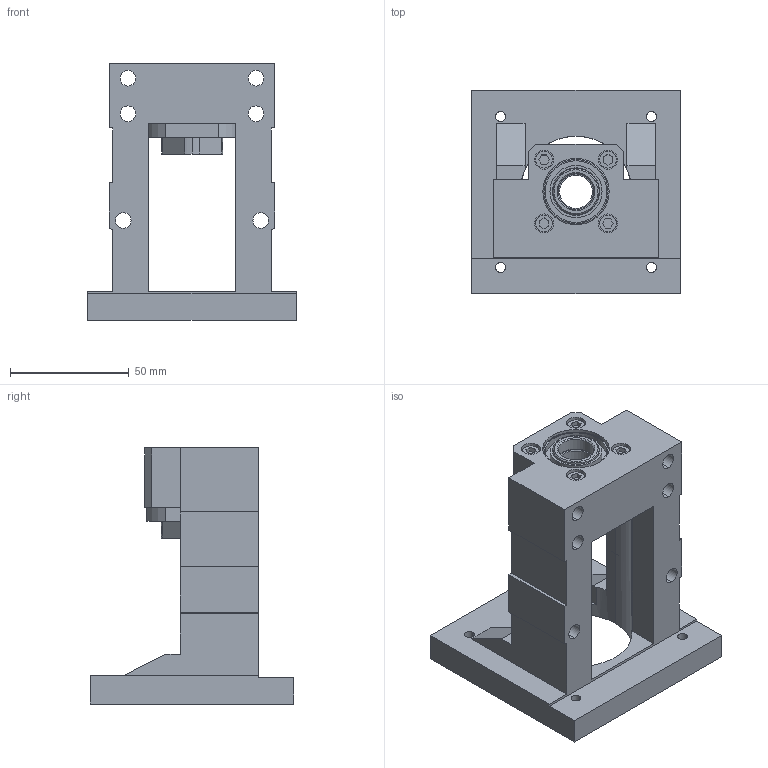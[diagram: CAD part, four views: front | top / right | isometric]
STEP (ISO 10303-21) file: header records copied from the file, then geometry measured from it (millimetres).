
FILE_DESCRIPTION (( 'STEP AP203' ), '1' );
FILE_NAME ('MBCB15-EP.STEP', '2023-01-13T03:15:05', ( '' ), ( '' ), 'SwSTEP 2.0', 'SolidWorks 2018', '' );
FILE_SCHEMA (( 'CONFIG_CONTROL_DESIGN' ));
Length unit declared in the file: millimetre
Products named in the file (12): 7002鋼珠4.7625; 7002; MBC15; BK15套筒; BK系列密封圈_BK15密封圈; MBCB15-EP_網路下載圖; M15鎖固螺帽_M15; 7002外圈; 螺絲_M4; 7002保持器; MBCB15-EP; 7002內圈
Assembly tree (28 placements, depth 3):
  MBCB15-EP
    MBCB15-EP_網路下載圖
    7002  x2
      7002外圈
      7002保持器
      7002內圈
      7002鋼珠4.7625
    MBC15
    BK15套筒  x2
    BK系列密封圈_BK15密封圈  x2
    M15鎖固螺帽_M15
    螺絲_M4  x4
Bounding box: 88 x 86 x 108 mm (x, y, z)
Volume: 179472 mm3; surface area: 73173.1 mm2
Topology: 41 solids, 42 shells, 557 faces, 1372 edges, 868 vertices
Faces by surface type: cylinder 226, plane 147, torus 104, sphere 48, cone 32
Entity records: 13760 total; most frequent: CARTESIAN_POINT 3520, DIRECTION 1910, ORIENTED_EDGE 1668, EDGE_CURVE 834, AXIS2_PLACEMENT_3D 766, VERTEX_POINT 526, EDGE_LOOP 444, CIRCLE 392
